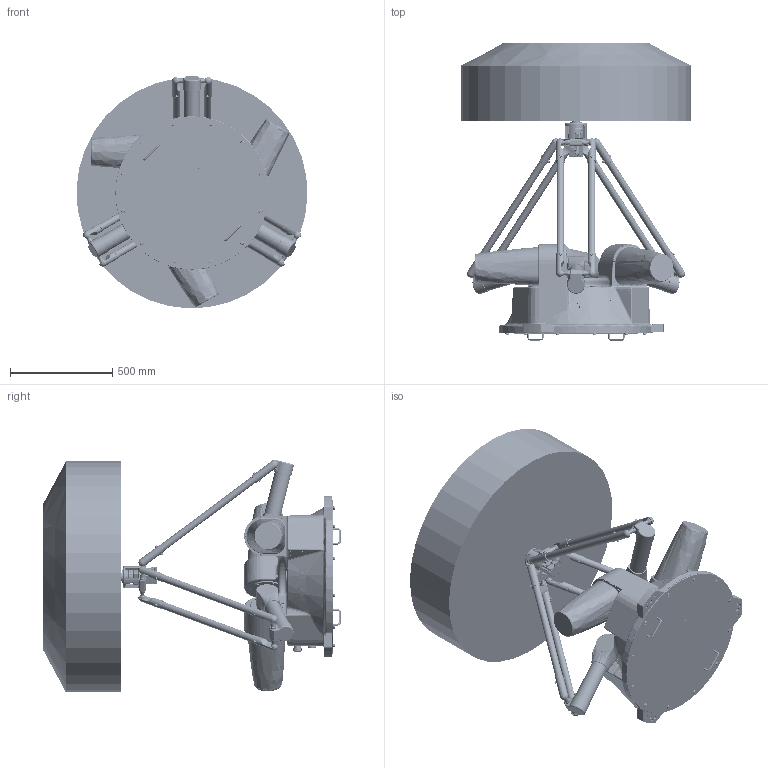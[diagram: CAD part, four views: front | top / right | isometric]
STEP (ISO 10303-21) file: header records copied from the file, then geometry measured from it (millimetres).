
FILE_DESCRIPTION (( 'STEP AP203' ), '1' );
FILE_NAME ('AP15X-1130-1544-T0-V2.0.0.STEP', '2024-10-12T01:08:10', ( '' ), ( '' ), 'SwSTEP 2.0', 'SolidWorks 2017', '' );
FILE_SCHEMA (( 'CONFIG_CONTROL_DESIGN' ));
Products named in the file (6): AP15X-1130-1544-T2-V1.0.0; AP15X-1130-1544-T3-V1.0.0; AP15X-1130-1544-T10-V1.0.0; AP15X-1130-1544-T9-V1.0.0; AP15X-1130-1544-T0-V2.0.0; AP15X-2200-1544-T1-V1.0.1
Assembly tree (12 placements, depth 2):
  AP15X-1130-1544-T0-V2.0.0
    AP15X-2200-1544-T1-V1.0.1
    AP15X-1130-1544-T2-V1.0.0  x3
    AP15X-1130-1544-T3-V1.0.0  x6
    AP15X-1130-1544-T10-V1.0.0
    AP15X-1130-1544-T9-V1.0.0
Bounding box: 1129.42 x 1453.5 x 1138.2 mm (x, y, z)
Volume: 346982478.8 mm3; surface area: 8439108.5 mm2
Topology: 45 solids, 367 shells, 8602 faces, 23237 edges, 14700 vertices
Faces by surface type: cylinder 2555, bspline 2352, plane 2251, cone 1087, torus 283, sphere 74
Entity records: 380438 total; most frequent: CARTESIAN_POINT 211621, ORIENTED_EDGE 37821, DIRECTION 29597, EDGE_CURVE 19601, VERTEX_POINT 12726, AXIS2_PLACEMENT_3D 10950, EDGE_LOOP 8170, VECTOR 7697
